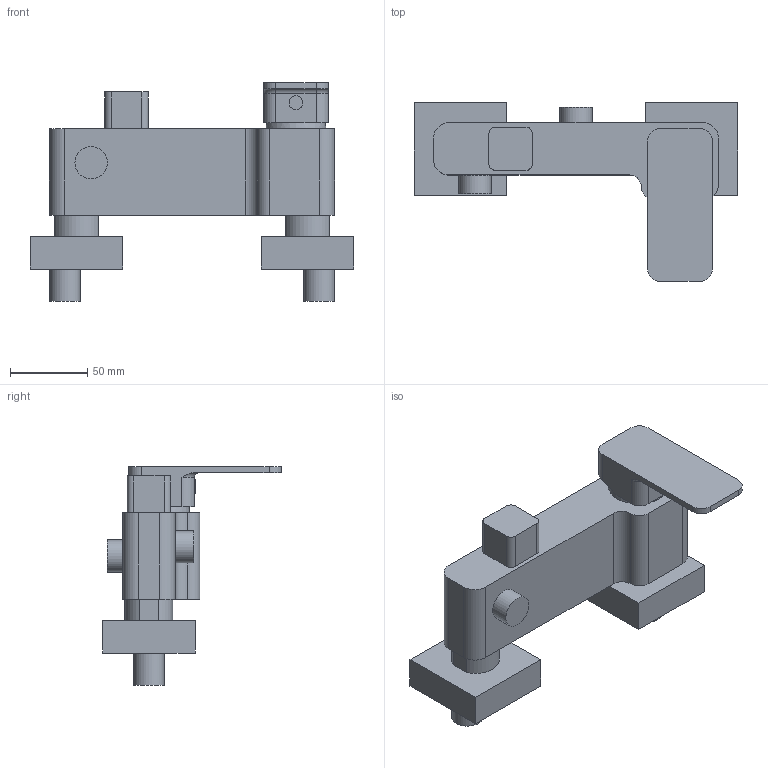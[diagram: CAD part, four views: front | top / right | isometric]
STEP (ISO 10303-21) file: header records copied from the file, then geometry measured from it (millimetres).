
FILE_DESCRIPTION(/* description */ ('LOFT Bateria natryskowa ścienna 2-funkcyjna z przyłączem górnym'),/* implementation_level */ '2;1');
FILE_NAME(/* name */ 'C:\Nextcloud\02_biblioteki_cad\Valvex\Projekt\PROJECTS\Eksport\ETAP 1\2455760\2455760.stp',/* time_stamp */ '2021-06-17T15:40:07+02:00',/* author */ ('Cadventure'),/* organization */ (''),/* preprocessor_version */ 'ST-DEVELOPER v18.1',/* originating_system */ 'Autodesk Inventor 2020',/* authorisation */ '');
FILE_SCHEMA (('AUTOMOTIVE_DESIGN { 1 0 10303 214 3 1 1 }'));
Length unit declared in the file: millimetre
Products named in the file (1): 2455760
Bounding box: 210 x 116 x 142 mm (x, y, z)
Volume: 669901.6 mm3; surface area: 83305.8 mm2
Topology: 2 solids, 2 shells, 71 faces, 176 edges, 119 vertices
Faces by surface type: plane 42, cylinder 26, torus 2, sphere 1
Full cylindrical faces by diameter (mm): 9 x1, 20 x2, 21 x2
Entity records: 2183 total; most frequent: CARTESIAN_POINT 384, DIRECTION 380, ORIENTED_EDGE 350, EDGE_CURVE 175, AXIS2_PLACEMENT_3D 135, VERTEX_POINT 119, LINE 110, VECTOR 110
